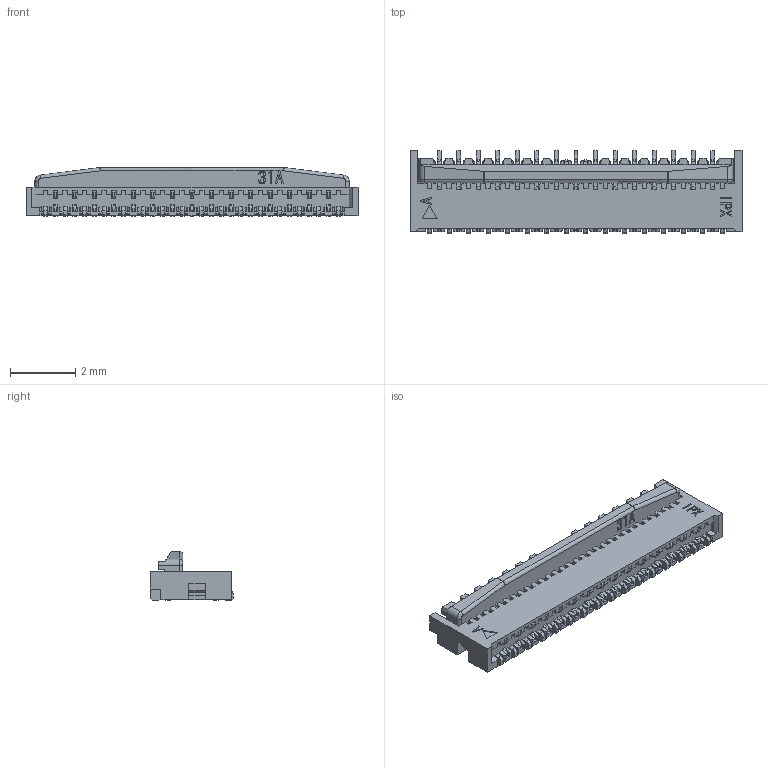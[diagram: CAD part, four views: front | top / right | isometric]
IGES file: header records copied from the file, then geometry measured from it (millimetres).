
Start section: SolidWorks IGES file using analytic representation for surfaces
Global section: file name: Q:\個人専用\SHIMADA\MFX3-BFN\3D-DATA\31p\iges\20527-031Exxx ACT OPEN IGES R2 KYOCERA.IGS; native system: SolidWorks 2010; preprocessor: SolidWorks 2010; author: kaihatsu-3dcad-7; date: 110627.221113; units: millimetre
Bounding box: 10.2 x 2.55 x 1.5 mm (x, y, z)
Surface area: 130.4 mm2 (no closed solid volume)
Topology: 0 solids, 0 shells, 2714 faces, 17349 edges, 17347 vertices
Faces by surface type: bspline 2193, revolution 521
